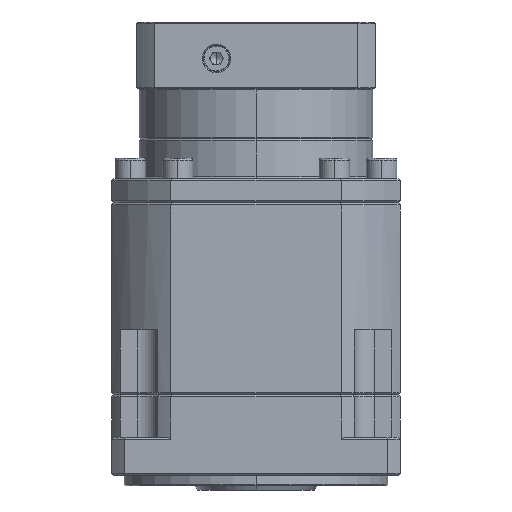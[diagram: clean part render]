
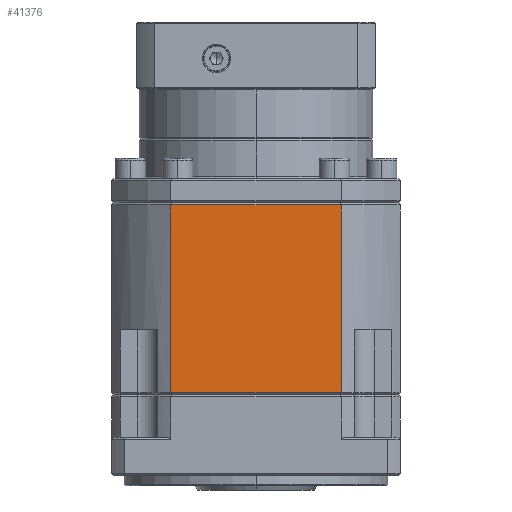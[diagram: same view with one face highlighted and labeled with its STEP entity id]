
A CAD part, left-side view. The second image highlights one B-rep face of the part: STEP entity #41376.
In plain terms, the highlighted planar face has unit normal (-1, 0, 0).
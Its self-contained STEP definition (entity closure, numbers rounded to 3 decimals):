
#477 = ORIENTED_EDGE ( 'NONE', *, *, #50774, .F. ) ;
#959 = VERTEX_POINT ( 'NONE', #36331 ) ;
#3498 = VECTOR ( 'NONE', #42306, 1000. ) ;
#4998 = DIRECTION ( 'NONE',  ( 0., 1., 0. ) ) ;
#5937 = EDGE_CURVE ( 'NONE', #104728, #959, #42698, .T. ) ;
#7904 = CARTESIAN_POINT ( 'NONE',  ( -108.741, -46.502, 287.1 ) ) ;
#10237 = EDGE_LOOP ( 'NONE', ( #114281, #52683, #477, #120662 ) ) ;
#13133 = AXIS2_PLACEMENT_3D ( 'NONE', #115851, #40660, #68785 ) ;
#19882 = LINE ( 'NONE', #53328, #24240 ) ;
#20777 = VECTOR ( 'NONE', #4998, 1000. ) ;
#24240 = VECTOR ( 'NONE', #72365, 1000. ) ;
#28421 = LINE ( 'NONE', #98084, #3498 ) ;
#36331 = CARTESIAN_POINT ( 'NONE',  ( -108.741, 37.528, 194.6 ) ) ;
#40660 = DIRECTION ( 'NONE',  ( 1., 0., 0. ) ) ;
#41376 = ADVANCED_FACE ( 'NONE', ( #56316 ), #86161, .F. ) ;
#42306 = DIRECTION ( 'NONE',  ( 0., 0., 1. ) ) ;
#42698 = LINE ( 'NONE', #51855, #20777 ) ;
#50774 = EDGE_CURVE ( 'NONE', #84098, #104728, #19882, .T. ) ;
#51855 = CARTESIAN_POINT ( 'NONE',  ( -108.741, -75.487, 194.6 ) ) ;
#52683 = ORIENTED_EDGE ( 'NONE', *, *, #5937, .F. ) ;
#53328 = CARTESIAN_POINT ( 'NONE',  ( -108.741, -46.502, 288.1 ) ) ;
#55315 = EDGE_CURVE ( 'NONE', #99405, #84098, #63241, .T. ) ;
#56316 = FACE_OUTER_BOUND ( 'NONE', #10237, .T. ) ;
#57722 = CARTESIAN_POINT ( 'NONE',  ( -108.741, -4.487, 287.1 ) ) ;
#60287 = VECTOR ( 'NONE', #105957, 1000. ) ;
#63241 = LINE ( 'NONE', #57722, #60287 ) ;
#68785 = DIRECTION ( 'NONE',  ( 0., 0., -1. ) ) ;
#72365 = DIRECTION ( 'NONE',  ( 0., 0., -1. ) ) ;
#84098 = VERTEX_POINT ( 'NONE', #7904 ) ;
#86161 = PLANE ( 'NONE',  #13133 ) ;
#87720 = CARTESIAN_POINT ( 'NONE',  ( -108.741, -46.502, 194.6 ) ) ;
#91981 = CARTESIAN_POINT ( 'NONE',  ( -108.741, 37.528, 287.1 ) ) ;
#98084 = CARTESIAN_POINT ( 'NONE',  ( -108.741, 37.528, 288.1 ) ) ;
#99405 = VERTEX_POINT ( 'NONE', #91981 ) ;
#104728 = VERTEX_POINT ( 'NONE', #87720 ) ;
#105957 = DIRECTION ( 'NONE',  ( 0., -1., 0. ) ) ;
#114281 = ORIENTED_EDGE ( 'NONE', *, *, #116363, .F. ) ;
#115851 = CARTESIAN_POINT ( 'NONE',  ( -108.741, -75.487, 288.1 ) ) ;
#116363 = EDGE_CURVE ( 'NONE', #959, #99405, #28421, .T. ) ;
#120662 = ORIENTED_EDGE ( 'NONE', *, *, #55315, .F. ) ;
